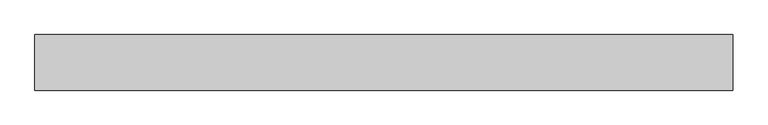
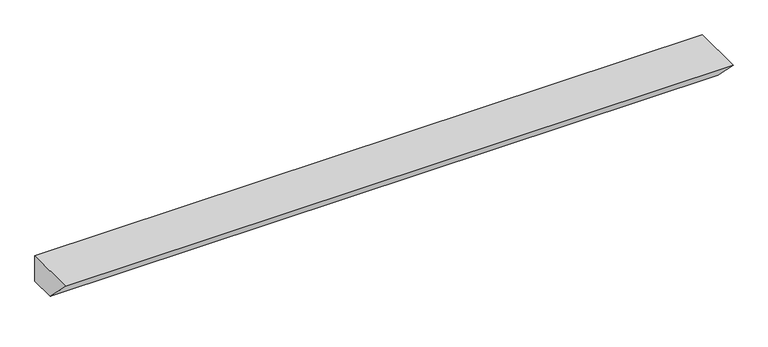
"""IFC4 building model written with IfcOpenShell, lengths in millimetres: proxy geometry, Gousset traverse bord droit : Gousset traverse bord droit."""

from ifc_helpers import new_model, si_unit, frame, origin, place, context, project, spatial, polyline, outline, extrude, source, transform, mapped, element, save


def generic_models_537f49c0(model_context):
    return source(origin(), model_context, "Body", "SweptSolid", [
        extrude(outline(polyline([(0.0, -350.0), (0.0, -700.0), (-350.0, -700.0), (-700.0, -350.0), (0.0, -350.0)])), frame((0.0, 0.0, 0.0), z_axis=(1.0, 0.0, 0.0), x_axis=(0.0, 1.0, 0.0)), (0.0, 0.0, 1.0), 8785.0),
    ])


if __name__ == "__main__":
    model = new_model("IFC4")
    model_context = context("Model", 3, world=origin())
    ifc_project = project(units=[si_unit("LENGTHUNIT", "METRE", prefix="MILLI")], contexts=[model_context])
    site = spatial("IfcSite", under=ifc_project)
    building = spatial("IfcBuilding", under=site)
    placement = place(None, origin())
    generic_models_shape = generic_models_537f49c0(model_context)
    element("IfcBuildingElementProxy", 1, Name="Gousset traverse bord droit : Gousset traverse bord droit", ObjectType="Gousset traverse bord droit : Gousset traverse bord droit", at=placement, inside=building, context=model_context, shape_type="MappedRepresentation", body=[
        mapped(generic_models_shape, transform((0.0, 0.0, 0.0), x_axis=(1.0, 0.0, 0.0), y_axis=(0.0, 1.0, 0.0), z_axis=(0.0, 0.0, 1.0))),
    ])
    save(model, "model.ifc")
